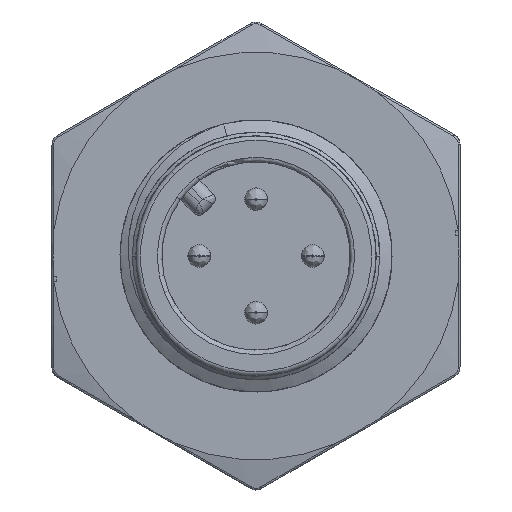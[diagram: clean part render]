
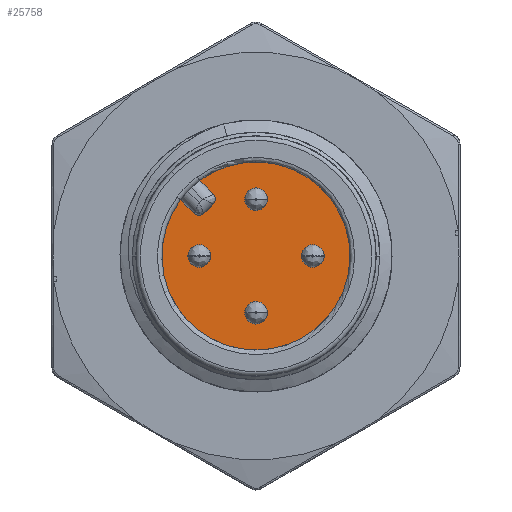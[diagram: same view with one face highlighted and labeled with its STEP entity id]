
A CAD part, left-side view. The second image highlights one B-rep face of the part: STEP entity #25758.
In plain terms, the highlighted planar face has unit normal (-1, 0, 0).
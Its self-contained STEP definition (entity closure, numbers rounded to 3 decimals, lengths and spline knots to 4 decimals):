
#193=CARTESIAN_POINT('',(7.3,0.,2.5032));
#194=DIRECTION('',(1.,0.,0.));
#195=DIRECTION('',(0.,-1.,-0.01));
#196=AXIS2_PLACEMENT_3D('',#193,#194,#195);
#219=CARTESIAN_POINT('',(7.3,2.5102,2.086));
#220=DIRECTION('',(-1.,0.,0.));
#221=DIRECTION('',(0.,0.707,-0.707));
#222=AXIS2_PLACEMENT_3D('',#219,#220,#221);
#224=CARTESIAN_POINT('',(7.3,2.086,2.5102));
#225=DIRECTION('',(-1.,0.,0.));
#226=DIRECTION('',(0.,-0.707,-0.707));
#227=AXIS2_PLACEMENT_3D('',#224,#225,#226);
#229=CARTESIAN_POINT('',(7.3,0.,-2.5032));
#230=DIRECTION('',(1.,0.,0.));
#231=DIRECTION('',(0.,-1.,-0.017));
#232=AXIS2_PLACEMENT_3D('',#229,#230,#231);
#255=DIRECTION('',(0.,1.,0.));
#256=VECTOR('',#255,0.2);
#257=CARTESIAN_POINT('',(7.3,-0.5,-2.5082));
#258=LINE('',#257,#256);
#263=CARTESIAN_POINT('',(7.3,0.,-2.5032));
#264=DIRECTION('',(1.,0.,0.));
#265=DIRECTION('',(0.,-1.,-0.01));
#266=AXIS2_PLACEMENT_3D('',#263,#264,#265);
#289=DIRECTION('',(0.,-1.,0.));
#290=VECTOR('',#289,0.2);
#291=CARTESIAN_POINT('',(7.3,-0.3,-2.4982));
#292=LINE('',#291,#290);
#729=CARTESIAN_POINT('',(7.3,2.5032,0.));
#730=DIRECTION('',(1.,0.,0.));
#731=DIRECTION('',(0.,-1.,-0.017));
#732=AXIS2_PLACEMENT_3D('',#729,#730,#731);
#755=DIRECTION('',(0.,1.,0.));
#756=VECTOR('',#755,0.2);
#757=CARTESIAN_POINT('',(7.3,2.0032,-0.005));
#758=LINE('',#757,#756);
#763=CARTESIAN_POINT('',(7.3,2.5032,0.));
#764=DIRECTION('',(1.,0.,0.));
#765=DIRECTION('',(0.,-1.,-0.01));
#766=AXIS2_PLACEMENT_3D('',#763,#764,#765);
#789=DIRECTION('',(0.,-1.,0.));
#790=VECTOR('',#789,0.2);
#791=CARTESIAN_POINT('',(7.3,2.2032,0.005));
#792=LINE('',#791,#790);
#1229=CARTESIAN_POINT('',(7.3,0.,2.5032));
#1230=DIRECTION('',(1.,0.,0.));
#1231=DIRECTION('',(0.,-1.,-0.017));
#1232=AXIS2_PLACEMENT_3D('',#1229,#1230,#1231);
#1255=DIRECTION('',(0.,1.,0.));
#1256=VECTOR('',#1255,0.2);
#1257=CARTESIAN_POINT('',(7.3,-0.5,2.4982));
#1258=LINE('',#1257,#1256);
#1398=DIRECTION('',(0.,-1.,0.));
#1399=VECTOR('',#1398,0.2);
#1400=CARTESIAN_POINT('',(7.3,-0.3,2.5082));
#1401=LINE('',#1400,#1399);
#1491=CARTESIAN_POINT('',(7.3,-2.5032,0.));
#1492=DIRECTION('',(1.,0.,0.));
#1493=DIRECTION('',(0.,-1.,-0.017));
#1494=AXIS2_PLACEMENT_3D('',#1491,#1492,#1493);
#1517=DIRECTION('',(0.,1.,0.));
#1518=VECTOR('',#1517,0.2);
#1519=CARTESIAN_POINT('',(7.3,-3.0031,-0.005));
#1520=LINE('',#1519,#1518);
#1525=CARTESIAN_POINT('',(7.3,-2.5032,0.));
#1526=DIRECTION('',(1.,0.,0.));
#1527=DIRECTION('',(0.,-1.,-0.01));
#1528=AXIS2_PLACEMENT_3D('',#1525,#1526,#1527);
#1551=DIRECTION('',(0.,-1.,0.));
#1552=VECTOR('',#1551,0.2);
#1553=CARTESIAN_POINT('',(7.3,-2.8031,0.005));
#1554=LINE('',#1553,#1552);
#1991=DIRECTION('',(0.,-0.707,-0.707));
#1992=VECTOR('',#1991,0.8564);
#1993=CARTESIAN_POINT('',(7.3,2.4794,3.3279));
#1994=LINE('',#1993,#1992);
#2032=DIRECTION('',(0.,0.707,-0.707));
#2033=VECTOR('',#2032,0.6);
#2034=CARTESIAN_POINT('',(7.3,1.8738,2.2981));
#2035=LINE('',#2034,#2033);
#2134=DIRECTION('',(0.,0.707,0.707));
#2135=VECTOR('',#2134,0.8564);
#2136=CARTESIAN_POINT('',(7.3,2.7224,1.8738));
#2137=LINE('',#2136,#2135);
#2161=CARTESIAN_POINT('',(7.3,0.,0.));
#2162=DIRECTION('',(-1.,0.,0.));
#2163=DIRECTION('',(0.,0.802,0.597));
#2164=AXIS2_PLACEMENT_3D('',#2161,#2162,#2163);
#24944=CARTESIAN_POINT('',(7.3,2.4794,3.3279));
#24945=CARTESIAN_POINT('',(7.3,1.8738,2.7224));
#24946=VERTEX_POINT('',#24944);
#24947=VERTEX_POINT('',#24945);
#24948=CARTESIAN_POINT('',(7.3,2.7224,1.8738));
#24949=CARTESIAN_POINT('',(7.3,3.3279,2.4794));
#24950=VERTEX_POINT('',#24948);
#24951=VERTEX_POINT('',#24949);
#24952=CARTESIAN_POINT('',(7.3,2.2981,1.8738));
#24953=VERTEX_POINT('',#24952);
#24954=CARTESIAN_POINT('',(7.3,1.8738,2.2981));
#24955=VERTEX_POINT('',#24954);
#25395=CARTESIAN_POINT('',(7.3,2.2032,-0.005));
#25396=CARTESIAN_POINT('',(7.3,2.2032,0.005));
#25397=VERTEX_POINT('',#25395);
#25398=VERTEX_POINT('',#25396);
#25399=CARTESIAN_POINT('',(7.3,2.0032,-0.005));
#25400=CARTESIAN_POINT('',(7.3,2.0032,0.005));
#25401=VERTEX_POINT('',#25399);
#25402=VERTEX_POINT('',#25400);
#25403=CARTESIAN_POINT('',(7.3,-0.3,2.4982));
#25404=CARTESIAN_POINT('',(7.3,-0.3,2.5082));
#25405=VERTEX_POINT('',#25403);
#25406=VERTEX_POINT('',#25404);
#25407=CARTESIAN_POINT('',(7.3,-0.5,2.4982));
#25408=CARTESIAN_POINT('',(7.3,-0.5,2.5082));
#25409=VERTEX_POINT('',#25407);
#25410=VERTEX_POINT('',#25408);
#25411=CARTESIAN_POINT('',(7.3,-2.8031,-0.005));
#25412=CARTESIAN_POINT('',(7.3,-2.8031,0.005));
#25413=VERTEX_POINT('',#25411);
#25414=VERTEX_POINT('',#25412);
#25415=CARTESIAN_POINT('',(7.3,-3.0031,-0.005));
#25416=CARTESIAN_POINT('',(7.3,-3.0031,0.005));
#25417=VERTEX_POINT('',#25415);
#25418=VERTEX_POINT('',#25416);
#25419=CARTESIAN_POINT('',(7.3,-0.3,-2.5082));
#25420=CARTESIAN_POINT('',(7.3,-0.3,-2.4982));
#25421=VERTEX_POINT('',#25419);
#25422=VERTEX_POINT('',#25420);
#25423=CARTESIAN_POINT('',(7.3,-0.5,-2.5082));
#25424=CARTESIAN_POINT('',(7.3,-0.5,-2.4982));
#25425=VERTEX_POINT('',#25423);
#25426=VERTEX_POINT('',#25424);
#25700=CARTESIAN_POINT('',(7.3,-0.0154,-0.0154));
#25701=DIRECTION('',(1.,0.,0.));
#25702=DIRECTION('',(0.,0.707,0.707));
#25703=AXIS2_PLACEMENT_3D('',#25700,#25701,#25702);
#25704=PLANE('',#25703);
#25706=ORIENTED_EDGE('',*,*,#25705,.F.);
#25708=ORIENTED_EDGE('',*,*,#25707,.F.);
#25710=ORIENTED_EDGE('',*,*,#25709,.F.);
#25712=ORIENTED_EDGE('',*,*,#25711,.T.);
#25714=ORIENTED_EDGE('',*,*,#25713,.F.);
#25716=ORIENTED_EDGE('',*,*,#25715,.T.);
#25717=EDGE_LOOP('',(#25706,#25708,#25710,#25712,#25714,#25716));
#25718=FACE_OUTER_BOUND('',#25717,.F.);
#25720=ORIENTED_EDGE('',*,*,#25719,.T.);
#25722=ORIENTED_EDGE('',*,*,#25721,.T.);
#25724=ORIENTED_EDGE('',*,*,#25723,.F.);
#25726=ORIENTED_EDGE('',*,*,#25725,.T.);
#25727=EDGE_LOOP('',(#25720,#25722,#25724,#25726));
#25728=FACE_BOUND('',#25727,.F.);
#25730=ORIENTED_EDGE('',*,*,#25729,.T.);
#25732=ORIENTED_EDGE('',*,*,#25731,.T.);
#25733=ORIENTED_EDGE('',*,*,#25672,.F.);
#25735=ORIENTED_EDGE('',*,*,#25734,.T.);
#25736=EDGE_LOOP('',(#25730,#25732,#25733,#25735));
#25737=FACE_BOUND('',#25736,.F.);
#25739=ORIENTED_EDGE('',*,*,#25738,.T.);
#25741=ORIENTED_EDGE('',*,*,#25740,.T.);
#25743=ORIENTED_EDGE('',*,*,#25742,.F.);
#25745=ORIENTED_EDGE('',*,*,#25744,.T.);
#25746=EDGE_LOOP('',(#25739,#25741,#25743,#25745));
#25747=FACE_BOUND('',#25746,.F.);
#25749=ORIENTED_EDGE('',*,*,#25748,.T.);
#25751=ORIENTED_EDGE('',*,*,#25750,.T.);
#25753=ORIENTED_EDGE('',*,*,#25752,.F.);
#25755=ORIENTED_EDGE('',*,*,#25754,.T.);
#25756=EDGE_LOOP('',(#25749,#25751,#25753,#25755));
#25757=FACE_BOUND('',#25756,.F.);
#25758=ADVANCED_FACE('',(#25718,#25728,#25737,#25747,#25757),#25704,.F.);
#197=CIRCLE('',#196,0.5);
#223=CIRCLE('',#222,0.3);
#228=CIRCLE('',#227,0.3);
#233=CIRCLE('',#232,0.3);
#267=CIRCLE('',#266,0.5);
#733=CIRCLE('',#732,0.3);
#767=CIRCLE('',#766,0.5);
#1233=CIRCLE('',#1232,0.3);
#1495=CIRCLE('',#1494,0.3);
#1529=CIRCLE('',#1528,0.5);
#2165=CIRCLE('',#2164,4.15);
#25672=EDGE_CURVE('',#25409,#25410,#197,.T.);
#25705=EDGE_CURVE('',#24946,#24947,#1994,.T.);
#25707=EDGE_CURVE('',#24951,#24946,#2165,.T.);
#25709=EDGE_CURVE('',#24950,#24951,#2137,.T.);
#25711=EDGE_CURVE('',#24950,#24953,#223,.T.);
#25713=EDGE_CURVE('',#24955,#24953,#2035,.T.);
#25715=EDGE_CURVE('',#24955,#24947,#228,.T.);
#25719=EDGE_CURVE('',#25397,#25398,#733,.T.);
#25721=EDGE_CURVE('',#25398,#25402,#792,.T.);
#25723=EDGE_CURVE('',#25401,#25402,#767,.T.);
#25725=EDGE_CURVE('',#25401,#25397,#758,.T.);
#25729=EDGE_CURVE('',#25405,#25406,#1233,.T.);
#25731=EDGE_CURVE('',#25406,#25410,#1401,.T.);
#25734=EDGE_CURVE('',#25409,#25405,#1258,.T.);
#25738=EDGE_CURVE('',#25413,#25414,#1495,.T.);
#25740=EDGE_CURVE('',#25414,#25418,#1554,.T.);
#25742=EDGE_CURVE('',#25417,#25418,#1529,.T.);
#25744=EDGE_CURVE('',#25417,#25413,#1520,.T.);
#25748=EDGE_CURVE('',#25421,#25422,#233,.T.);
#25750=EDGE_CURVE('',#25422,#25426,#292,.T.);
#25752=EDGE_CURVE('',#25425,#25426,#267,.T.);
#25754=EDGE_CURVE('',#25425,#25421,#258,.T.);
